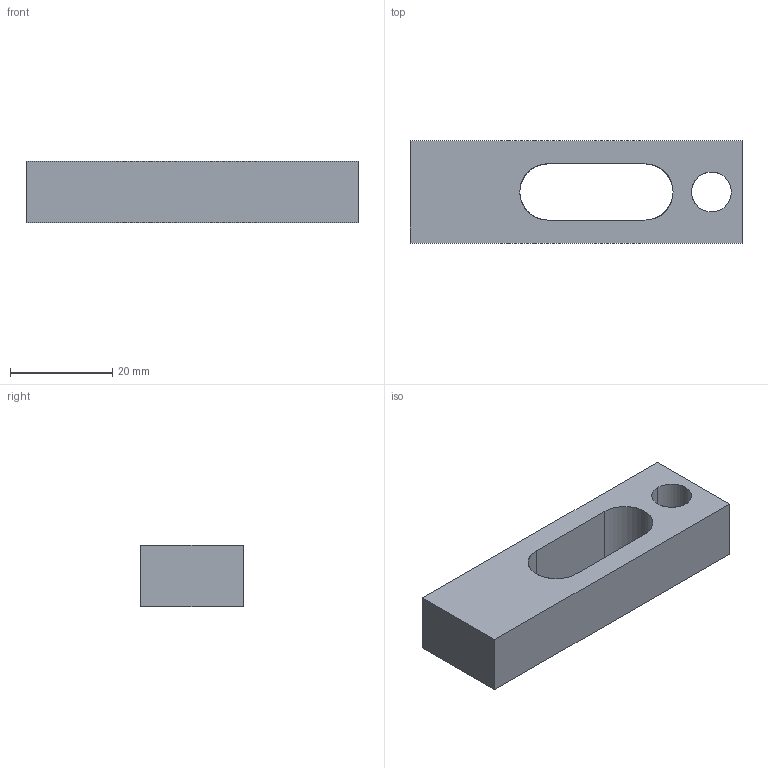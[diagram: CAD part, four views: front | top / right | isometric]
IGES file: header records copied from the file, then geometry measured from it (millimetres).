
Global section: file name: E:\UnigraphicsGraphicData\MISUMI_PRESS-PARTS\IGES\3d_tee12-11_05661_r00.igs; native system: NX V5.0; preprocessor: UGS NX IGES V5.0; author: MISUMI; date: 20110105.163420; units: millimetre
Bounding box: 65 x 20 x 12 mm (x, y, z)
Surface area: 5100.2 mm2 (no closed solid volume)
Topology: 0 solids, 0 shells, 12 faces, 84 edges, 84 vertices
Faces by surface type: bspline 12
